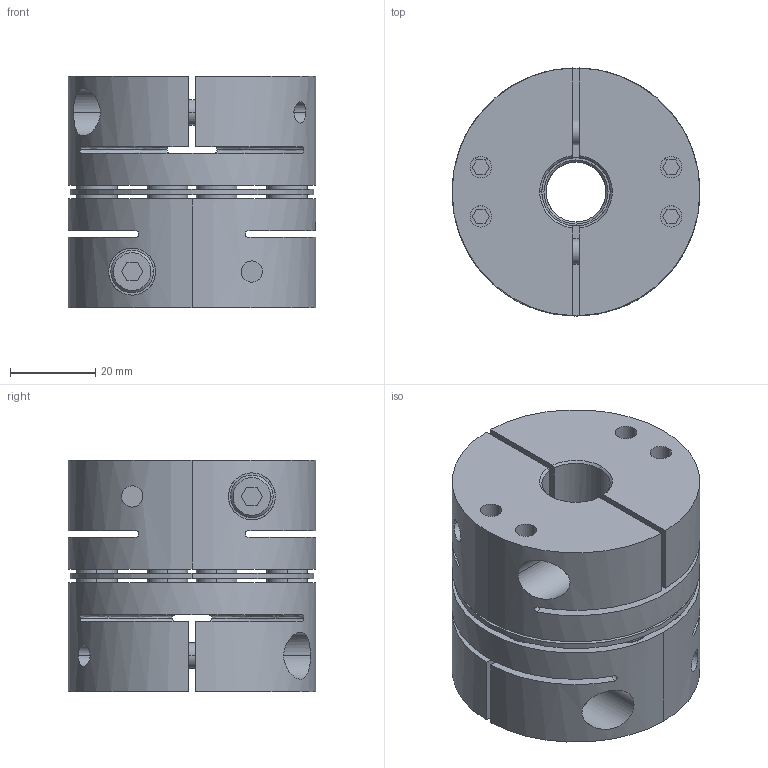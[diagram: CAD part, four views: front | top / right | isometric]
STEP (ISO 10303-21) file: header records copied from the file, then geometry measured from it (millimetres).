
FILE_DESCRIPTION((''),'2;1');
FILE_NAME('TAS-58C-14×16.stp','2022-11-14T21:55:46',(''),(''),'AutoCAD STEP 2000i','AutoCAD 2000i',', , ');
FILE_SCHEMA(('CONFIG_CONTROL_DESIGN'));
Length unit declared in the file: millimetre
Products named in the file (5): TAS-58C-12×12; 忣兜1; TA58C-12-2; CAP-M6×20; TA58C-12
Assembly tree (5 placements, depth 3):
  TAS-58C-12×12
    忣兜1
    TA58C-12-2
      CAP-M6×20
    TA58C-12
      CAP-M6×20
Bounding box: 58 x 58 x 54.25 mm (x, y, z)
Volume: 111587 mm3; surface area: 42630.6 mm2
Topology: 1 solids, 1 shells, 360 faces, 893 edges, 611 vertices
Faces by surface type: plane 160, cylinder 148, cone 36, bspline 16
Entity records: 12751 total; most frequent: CARTESIAN_POINT 3837, DIRECTION 1908, ORIENTED_EDGE 1720, EDGE_CURVE 860, AXIS2_PLACEMENT_3D 729, VERTEX_POINT 564, EDGE_LOOP 464, VECTOR 450
